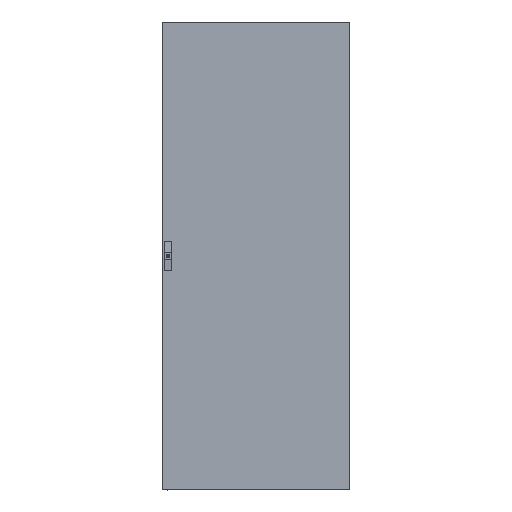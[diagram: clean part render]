
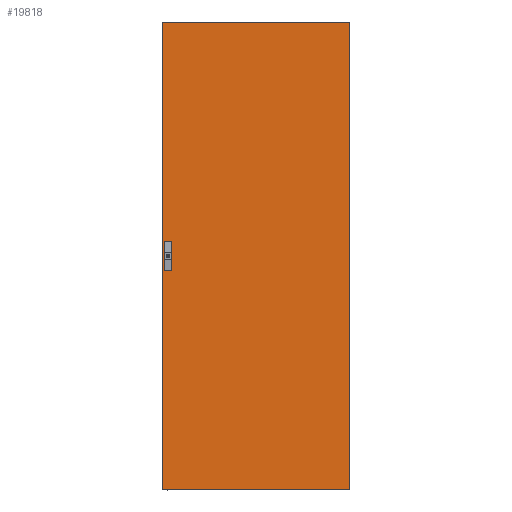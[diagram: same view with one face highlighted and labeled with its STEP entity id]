
A CAD part, top view. The second image highlights one B-rep face of the part: STEP entity #19818.
In plain terms, the highlighted planar face has unit normal (0, 0, 1).
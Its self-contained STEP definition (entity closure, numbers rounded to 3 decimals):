
#1615 = CARTESIAN_POINT ( 'NONE',  ( -359.5, -62.6, 6.5 ) ) ;
#3740 = VECTOR ( 'NONE', #76138, 1000. ) ;
#3964 = CARTESIAN_POINT ( 'NONE',  ( -391.5, 62.4, 6.5 ) ) ;
#5643 = VECTOR ( 'NONE', #99103, 1000. ) ;
#7239 = VERTEX_POINT ( 'NONE', #46130 ) ;
#8278 = ORIENTED_EDGE ( 'NONE', *, *, #88071, .T. ) ;
#8996 = DIRECTION ( 'NONE',  ( 0., -1., 0. ) ) ;
#11026 = CARTESIAN_POINT ( 'NONE',  ( 0., -995., 6.5 ) ) ;
#11862 = LINE ( 'NONE', #102023, #43303 ) ;
#12025 = ORIENTED_EDGE ( 'NONE', *, *, #96801, .T. ) ;
#12906 = VERTEX_POINT ( 'NONE', #83588 ) ;
#13057 = LINE ( 'NONE', #21461, #29314 ) ;
#13088 = DIRECTION ( 'NONE',  ( 0., 1., 0. ) ) ;
#13398 = CARTESIAN_POINT ( 'NONE',  ( -397.5, -992.859, 6.5 ) ) ;
#13601 = LINE ( 'NONE', #22009, #87334 ) ;
#13618 = DIRECTION ( 'NONE',  ( -1., 0., 0. ) ) ;
#13721 = CARTESIAN_POINT ( 'NONE',  ( 397.5, 992.859, 6.5 ) ) ;
#13912 = CARTESIAN_POINT ( 'NONE',  ( 395.359, 995., 6.5 ) ) ;
#14437 = CARTESIAN_POINT ( 'NONE',  ( 0., 995., 6.5 ) ) ;
#14656 = LINE ( 'NONE', #15172, #71698 ) ;
#14672 = LINE ( 'NONE', #35946, #82654 ) ;
#15172 = CARTESIAN_POINT ( 'NONE',  ( -391.5, -62.6, 6.5 ) ) ;
#16169 = EDGE_LOOP ( 'NONE', ( #41132, #66084, #33366, #97255 ) ) ;
#16475 = VECTOR ( 'NONE', #102641, 1000. ) ;
#16496 = EDGE_CURVE ( 'NONE', #97125, #61896, #13601, .T. ) ;
#18903 = LINE ( 'NONE', #11026, #87482 ) ;
#19325 = CARTESIAN_POINT ( 'NONE',  ( 0., 0., 6.5 ) ) ;
#19818 = ADVANCED_FACE ( 'NONE', ( #75778, #91095 ), #28774, .T. ) ;
#20103 = VECTOR ( 'NONE', #58024, 1000. ) ;
#20305 = CARTESIAN_POINT ( 'NONE',  ( 395.359, -992.859, 6.5 ) ) ;
#21461 = CARTESIAN_POINT ( 'NONE',  ( 395.359, 0., 6.5 ) ) ;
#22009 = CARTESIAN_POINT ( 'NONE',  ( -397.5, 0., 6.5 ) ) ;
#22402 = CARTESIAN_POINT ( 'NONE',  ( -395.359, -995., 6.5 ) ) ;
#25383 = VECTOR ( 'NONE', #8996, 1000. ) ;
#26214 = VERTEX_POINT ( 'NONE', #36947 ) ;
#27050 = EDGE_CURVE ( 'NONE', #7239, #82821, #85259, .T. ) ;
#27320 = ORIENTED_EDGE ( 'NONE', *, *, #75264, .F. ) ;
#27332 = CARTESIAN_POINT ( 'NONE',  ( 395.5, 992.859, 6.5 ) ) ;
#27399 = EDGE_CURVE ( 'NONE', #84841, #12906, #60322, .T. ) ;
#28458 = ORIENTED_EDGE ( 'NONE', *, *, #16496, .F. ) ;
#28774 = PLANE ( 'NONE',  #50569 ) ;
#28809 = ORIENTED_EDGE ( 'NONE', *, *, #27050, .T. ) ;
#29141 = ORIENTED_EDGE ( 'NONE', *, *, #50486, .F. ) ;
#29314 = VECTOR ( 'NONE', #53642, 1000. ) ;
#32317 = EDGE_CURVE ( 'NONE', #61896, #82821, #93541, .T. ) ;
#32734 = VERTEX_POINT ( 'NONE', #13721 ) ;
#33207 = LINE ( 'NONE', #1615, #25383 ) ;
#33366 = ORIENTED_EDGE ( 'NONE', *, *, #34871, .T. ) ;
#34871 = EDGE_CURVE ( 'NONE', #61255, #26214, #33207, .T. ) ;
#35023 = VERTEX_POINT ( 'NONE', #91780 ) ;
#35946 = CARTESIAN_POINT ( 'NONE',  ( -359.5, 62.4, 6.5 ) ) ;
#36298 = VERTEX_POINT ( 'NONE', #95931 ) ;
#36947 = CARTESIAN_POINT ( 'NONE',  ( -359.5, -62.6, 6.5 ) ) ;
#36971 = DIRECTION ( 'NONE',  ( 1., 0., 0. ) ) ;
#38781 = LINE ( 'NONE', #78904, #66581 ) ;
#39976 = LINE ( 'NONE', #48431, #83021 ) ;
#40537 = EDGE_LOOP ( 'NONE', ( #41907, #29141, #82268, #84808, #12025, #85720, #27320, #45579, #28809, #87479, #28458, #8278 ) ) ;
#41132 = ORIENTED_EDGE ( 'NONE', *, *, #27399, .T. ) ;
#41907 = ORIENTED_EDGE ( 'NONE', *, *, #100335, .F. ) ;
#43303 = VECTOR ( 'NONE', #85149, 1000. ) ;
#43743 = VERTEX_POINT ( 'NONE', #99312 ) ;
#43809 = VECTOR ( 'NONE', #94031, 1000. ) ;
#44193 = DIRECTION ( 'NONE',  ( -1., 0., 0. ) ) ;
#44995 = EDGE_CURVE ( 'NONE', #26214, #84841, #14656, .T. ) ;
#45579 = ORIENTED_EDGE ( 'NONE', *, *, #87094, .F. ) ;
#46130 = CARTESIAN_POINT ( 'NONE',  ( -395.359, 995., 6.5 ) ) ;
#48160 = LINE ( 'NONE', #14437, #82875 ) ;
#48431 = CARTESIAN_POINT ( 'NONE',  ( -395.5, -992.859, 6.5 ) ) ;
#48801 = DIRECTION ( 'NONE',  ( 0., 1., 0. ) ) ;
#49619 = EDGE_CURVE ( 'NONE', #61905, #36298, #91970, .T. ) ;
#50408 = CARTESIAN_POINT ( 'NONE',  ( -397.5, 992.859, 6.5 ) ) ;
#50486 = EDGE_CURVE ( 'NONE', #35023, #51760, #18903, .T. ) ;
#50569 = AXIS2_PLACEMENT_3D ( 'NONE', #19325, #84209, #51501 ) ;
#51501 = DIRECTION ( 'NONE',  ( 1., 0., 0. ) ) ;
#51760 = VERTEX_POINT ( 'NONE', #22402 ) ;
#53642 = DIRECTION ( 'NONE',  ( 0., -1., 0. ) ) ;
#58024 = DIRECTION ( 'NONE',  ( 0., 1., 0. ) ) ;
#59511 = LINE ( 'NONE', #27332, #5643 ) ;
#59762 = CARTESIAN_POINT ( 'NONE',  ( 395.5, -992.859, 6.5 ) ) ;
#60322 = LINE ( 'NONE', #3964, #94070 ) ;
#61255 = VERTEX_POINT ( 'NONE', #85585 ) ;
#61896 = VERTEX_POINT ( 'NONE', #50408 ) ;
#61905 = VERTEX_POINT ( 'NONE', #20305 ) ;
#64458 = EDGE_CURVE ( 'NONE', #32734, #43743, #59511, .T. ) ;
#66084 = ORIENTED_EDGE ( 'NONE', *, *, #84556, .T. ) ;
#66581 = VECTOR ( 'NONE', #48801, 1000. ) ;
#68720 = CARTESIAN_POINT ( 'NONE',  ( 0., 992.859, 6.5 ) ) ;
#71698 = VECTOR ( 'NONE', #13618, 1000. ) ;
#72180 = DIRECTION ( 'NONE',  ( 1., 0., 0. ) ) ;
#75264 = EDGE_CURVE ( 'NONE', #102821, #43743, #13057, .T. ) ;
#75778 = FACE_OUTER_BOUND ( 'NONE', #40537, .T. ) ;
#76138 = DIRECTION ( 'NONE',  ( 1., 0., 0. ) ) ;
#78904 = CARTESIAN_POINT ( 'NONE',  ( 397.5, 0., 6.5 ) ) ;
#80347 = DIRECTION ( 'NONE',  ( 1., 0., 0. ) ) ;
#82268 = ORIENTED_EDGE ( 'NONE', *, *, #98361, .T. ) ;
#82654 = VECTOR ( 'NONE', #36971, 1000. ) ;
#82821 = VERTEX_POINT ( 'NONE', #95509 ) ;
#82875 = VECTOR ( 'NONE', #80347, 1000. ) ;
#83021 = VECTOR ( 'NONE', #72180, 1000. ) ;
#83581 = DIRECTION ( 'NONE',  ( 0., 1., 0. ) ) ;
#83588 = CARTESIAN_POINT ( 'NONE',  ( -391.5, 62.4, 6.5 ) ) ;
#84209 = DIRECTION ( 'NONE',  ( 0., 0., 1. ) ) ;
#84556 = EDGE_CURVE ( 'NONE', #12906, #61255, #14672, .T. ) ;
#84808 = ORIENTED_EDGE ( 'NONE', *, *, #49619, .T. ) ;
#84841 = VERTEX_POINT ( 'NONE', #100596 ) ;
#85149 = DIRECTION ( 'NONE',  ( 0., 1., 0. ) ) ;
#85259 = LINE ( 'NONE', #86814, #16475 ) ;
#85585 = CARTESIAN_POINT ( 'NONE',  ( -359.5, 62.4, 6.5 ) ) ;
#85720 = ORIENTED_EDGE ( 'NONE', *, *, #64458, .T. ) ;
#86814 = CARTESIAN_POINT ( 'NONE',  ( -395.359, 993., 6.5 ) ) ;
#87094 = EDGE_CURVE ( 'NONE', #7239, #102821, #48160, .T. ) ;
#87334 = VECTOR ( 'NONE', #13088, 1000. ) ;
#87479 = ORIENTED_EDGE ( 'NONE', *, *, #32317, .F. ) ;
#87482 = VECTOR ( 'NONE', #44193, 1000. ) ;
#88071 = EDGE_CURVE ( 'NONE', #97125, #91513, #39976, .T. ) ;
#89193 = CARTESIAN_POINT ( 'NONE',  ( -395.359, 0., 6.5 ) ) ;
#91095 = FACE_BOUND ( 'NONE', #16169, .T. ) ;
#91513 = VERTEX_POINT ( 'NONE', #96369 ) ;
#91780 = CARTESIAN_POINT ( 'NONE',  ( 395.359, -995., 6.5 ) ) ;
#91970 = LINE ( 'NONE', #59762, #43809 ) ;
#93541 = LINE ( 'NONE', #68720, #3740 ) ;
#94031 = DIRECTION ( 'NONE',  ( 1., 0., 0. ) ) ;
#94070 = VECTOR ( 'NONE', #83581, 1000. ) ;
#95509 = CARTESIAN_POINT ( 'NONE',  ( -395.359, 992.859, 6.5 ) ) ;
#95931 = CARTESIAN_POINT ( 'NONE',  ( 397.5, -992.859, 6.5 ) ) ;
#96369 = CARTESIAN_POINT ( 'NONE',  ( -395.359, -992.859, 6.5 ) ) ;
#96801 = EDGE_CURVE ( 'NONE', #36298, #32734, #38781, .T. ) ;
#97125 = VERTEX_POINT ( 'NONE', #13398 ) ;
#97255 = ORIENTED_EDGE ( 'NONE', *, *, #44995, .T. ) ;
#98157 = LINE ( 'NONE', #89193, #20103 ) ;
#98361 = EDGE_CURVE ( 'NONE', #35023, #61905, #11862, .T. ) ;
#99103 = DIRECTION ( 'NONE',  ( -1., 0., 0. ) ) ;
#99312 = CARTESIAN_POINT ( 'NONE',  ( 395.359, 992.859, 6.5 ) ) ;
#100335 = EDGE_CURVE ( 'NONE', #51760, #91513, #98157, .T. ) ;
#100596 = CARTESIAN_POINT ( 'NONE',  ( -391.5, -62.6, 6.5 ) ) ;
#102023 = CARTESIAN_POINT ( 'NONE',  ( 395.359, -993., 6.5 ) ) ;
#102641 = DIRECTION ( 'NONE',  ( 0., -1., 0. ) ) ;
#102821 = VERTEX_POINT ( 'NONE', #13912 ) ;
